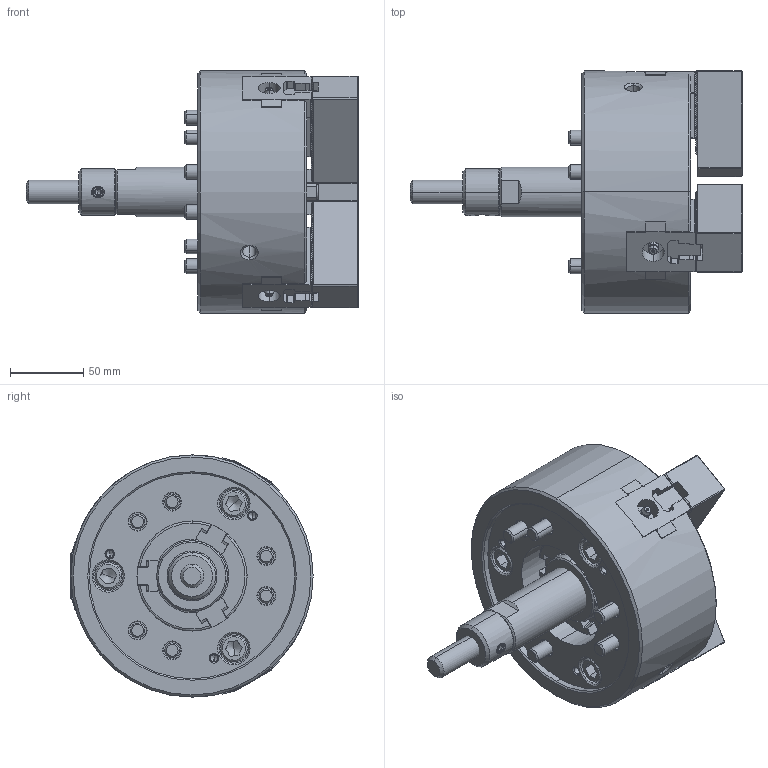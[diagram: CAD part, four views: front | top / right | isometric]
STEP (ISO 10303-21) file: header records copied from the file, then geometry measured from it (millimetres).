
FILE_DESCRIPTION (( 'STEP AP214' ), '1' );
FILE_NAME ('DT1_N-06_OUTSIDE_VIEW_HUL.STEP', '2026-03-13T02:44:07', ( '' ), ( '' ), 'SwSTEP 2.0', 'SolidWorks 2022', '' );
FILE_SCHEMA (( 'AUTOMOTIVE_DESIGN' ));
Length unit declared in the file: millimetre
Products named in the file (11): DT1_N-06_BASE^DT1_N-06; DT1_N-06_DN^DT1_N-06; DT1_N-06_COVER^DT1_N-06; DT1_N-06_M5x12^DT1_N-06; DT1_N-06_DRAWSCREW^DT1_N-06; DT1_N-06_OUTSIDE_VIEW_HUL; Copy of P31410^DT1_N-06; DT1_N-06_M10x70^DT1_N-06; DT1_N-06_M10x30^DT1_N-06; DT1_N-06_TNUT^DT1_N-06; DT1_N-06_SOFTJAW^DT1_N-06
Assembly tree (26 placements, depth 2):
  DT1_N-06_OUTSIDE_VIEW_HUL
    DT1_N-06_SOFTJAW^DT1_N-06  x3
    DT1_N-06_TNUT^DT1_N-06  x3
    DT1_N-06_COVER^DT1_N-06
    DT1_N-06_DRAWSCREW^DT1_N-06
    Copy of P31410^DT1_N-06
    DT1_N-06_DN^DT1_N-06
    DT1_N-06_BASE^DT1_N-06
    DT1_N-06_M5x12^DT1_N-06  x3
    DT1_N-06_M10x30^DT1_N-06  x6
    DT1_N-06_M10x70^DT1_N-06  x6
Bounding box: 226.15 x 165.06 x 165 mm (x, y, z)
Volume: 1650510.8 mm3; surface area: 269988.1 mm2
Topology: 26 solids, 26 shells, 3710 faces, 10342 edges, 6730 vertices
Faces by surface type: plane 2198, cylinder 959, cone 356, bspline 133, torus 58, sphere 6
Entity records: 88809 total; most frequent: CARTESIAN_POINT 26275, ORIENTED_EDGE 14040, DIRECTION 11316, EDGE_CURVE 7020, VECTOR 4826, LINE 4826, VERTEX_POINT 4578, AXIS2_PLACEMENT_3D 3245
